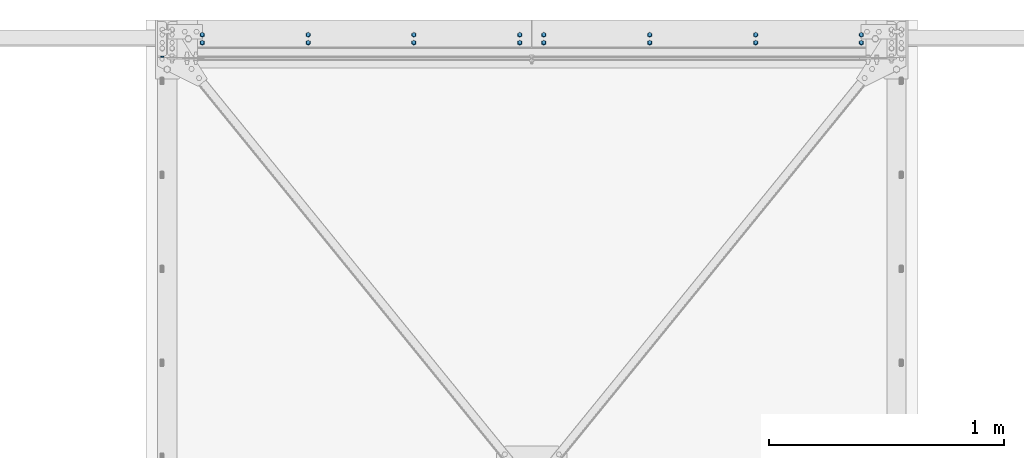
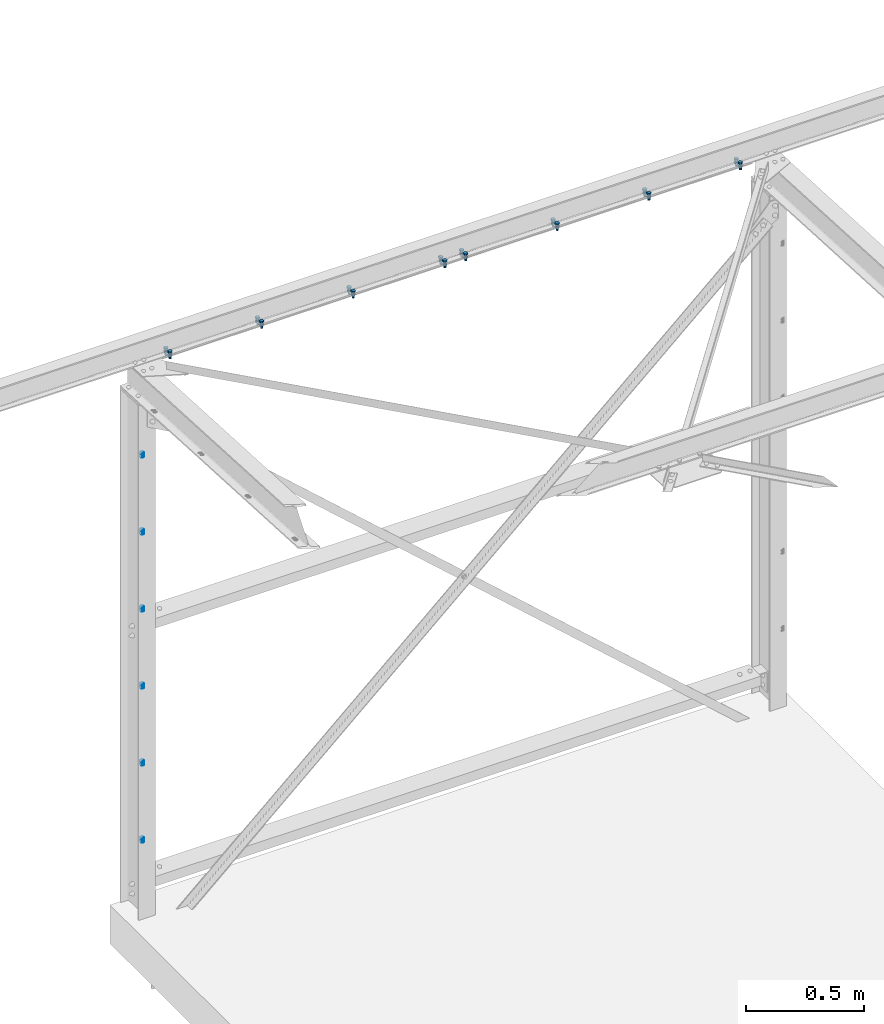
# One storey, part 138 of 362: 3 mechanical fasteners.
"""IFC2X3 building model written with IfcOpenShell, lengths in millimetres."""

from ifc_helpers import new_model, si_unit, frame, frame_2d, origin_with_axes, origin_2d_with_axis, place, context, subcontext, project, spatial, polyline, circle_curve, parameter, trimmed, segment, composite_curve, circle, outline, extrude, source, transform, mapped, material, type_object, element, save


model = new_model("IFC2X3")

# Units and contexts
model_context = context("Model", 3, precision=1e-05, world=origin_with_axes())
body_context = subcontext(model_context, "Body", "Model", "MODEL_VIEW")
ifc_project = project(units=[si_unit("LENGTHUNIT", "METRE", prefix="MILLI"), si_unit("AREAUNIT", "SQUARE_METRE"), si_unit("VOLUMEUNIT", "CUBIC_METRE"), si_unit("MASSUNIT", "GRAM", prefix="KILO"), si_unit("TIMEUNIT", "SECOND"), si_unit("PLANEANGLEUNIT", "RADIAN"), si_unit("SOLIDANGLEUNIT", "STERADIAN"), si_unit("THERMODYNAMICTEMPERATUREUNIT", "DEGREE_CELSIUS"), si_unit("LUMINOUSINTENSITYUNIT", "LUMEN")], contexts=[model_context])

# Site, building, storey
site_placement = place(None, origin_with_axes())
site = spatial("IfcSite", under=ifc_project, at=site_placement, Name="Undefined", CompositionType="ELEMENT")
building_placement = place(site_placement, origin_with_axes())
building = spatial("IfcBuilding", under=site, at=building_placement, Name="Undefined", CompositionType="ELEMENT")
storey_placement = place(building_placement, origin_with_axes())
storey = spatial("IfcBuildingStorey", under=building, at=storey_placement, Name="Undefined", CompositionType="ELEMENT", Elevation=0.0)

# Mechanical fasteners
ifc_material_1 = material(Name="#_SB-8.8-ZINGUE")
mechanical_fastener_type = type_object("IfcMechanicalFastenerType", Name="Bolt assembly")
shared_shape_1 = source(origin_with_axes(), body_context, "Body", "SweptSolid", [
    extrude(outline(composite_curve([segment(polyline([(-7.0, 7.0), (7.0, 7.0)]), True, "CONTINUOUS"), segment(trimmed(circle_curve(frame_2d((7.0, 0.0), x_axis=(0.0, 1.0)), 7.0), [parameter(0.0)], [parameter(3.14159265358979)], False, "PARAMETER"), True, "CONTINUOUS"), segment(polyline([(7.0, -7.0), (-7.0, -7.0)]), True, "CONTINUOUS"), segment(trimmed(circle_curve(frame_2d((-7.0, 0.0), x_axis=(0.0, -1.0)), 7.0), [parameter(0.0)], [parameter(3.14159265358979)], False, "PARAMETER"), True, "DISCONTINUOUS")], self_intersect=False)), frame((0.0, -7.40002311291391, 0.0), z_axis=(0.0, 1.0, 0.0), x_axis=(1.0, 0.0, 0.0)), (0.0, 0.0, 1.0), 7.5),
])
mechanical_fastener_placement = place(storey_placement, frame((28882.0000011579, 29160.0000663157, 409.999999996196), z_axis=(1.0, 0.0, 0.0), x_axis=(0.0, 0.0, 1.0)))
element("IfcMechanicalFastener", 1, at=mechanical_fastener_placement, inside=storey, type_object=mechanical_fastener_type, material=ifc_material_1, Name="Bolt assembly", NominalDiameter=12.0, NominalLength=7.40000009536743, context=body_context, shape_type="MappedRepresentation", body=[
    mapped(shared_shape_1, transform((0.0, 0.0, 0.0))),
    mapped(shared_shape_1, transform((400.0, 0.0, 0.0))),
    mapped(shared_shape_1, transform((800.0, 0.0, 0.0))),
    mapped(shared_shape_1, transform((1200.0, 0.0, 0.0))),
    mapped(shared_shape_1, transform((1600.0, 0.0, 0.0))),
    mapped(shared_shape_1, transform((2000.0, 0.0, 0.0))),
])
ifc_material_2 = material(Name="6.8")
shared_shape_2 = source(origin_with_axes(), body_context, "Body", "SweptSolid", [
    extrude(circle(Radius=6.0, at=origin_2d_with_axis()), frame((0.0, -6.19999893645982, 0.0), z_axis=(0.0, 1.0, 0.0), x_axis=(1.0, 0.0, 0.0)), (0.0, 0.0, 1.0), 6.3),
    extrude(circle(Radius=6.0, at=origin_2d_with_axis()), frame((0.0, -0.100011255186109, 0.0), z_axis=(0.0, 1.0, 0.0), x_axis=(1.0, 0.0, 0.0)), (0.0, 0.0, 1.0), 3.1),
    extrude(outline(polyline([(9.81495457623, 0.0), (4.907477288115, 8.5000000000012), (-4.907477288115, 8.5000000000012), (-9.81495457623, 0.0), (-4.907477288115, -8.5000000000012), (4.907477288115, -8.5000000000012), (9.81495457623, 0.0)])), frame((0.0, -13.7999989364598, 0.0), z_axis=(0.0, 1.0, 0.0), x_axis=(1.0, 0.0, 0.0)), (0.0, 0.0, 1.0), 7.5),
    extrude(circle(Radius=5.0, at=origin_2d_with_axis()), frame((0.0, -6.29999893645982, 0.0), z_axis=(0.0, 1.0, 0.0), x_axis=(1.0, 0.0, 0.0)), (0.0, 0.0, 1.0), 30.0),
    extrude(outline(polyline([(9.23760430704, 0.0), (4.61880215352, 8.00000000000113), (-4.61880215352, 8.00000000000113), (-9.23760430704, 0.0), (-4.61880215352, -8.00000000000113), (4.61880215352, -8.00000000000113), (9.23760430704, 0.0)])), frame((0.0, 3.00000067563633, 0.0), z_axis=(0.0, 1.0, 0.0), x_axis=(1.0, 0.0, 0.0)), (0.0, 0.0, 1.0), 8.4),
])
for number, where, z_axis, x_axis, name in (
    (2, (31178.9999524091, 29223.0233444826, 2838.88925744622), (-1.0, 0.0, 0.0), (-6.99999093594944e-09, 0.998630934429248, -0.0523092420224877), "Bolt assembly"),
    (3, (29726.9999546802, 29223.0233444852, 2838.88925744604), (-1.0, 0.0, 0.0), (-6.99999093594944e-09, 0.998630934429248, -0.0523092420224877), "Bolt assembly"),
):
    element("IfcMechanicalFastener", number, at=place(storey_placement, frame(where, z_axis=z_axis, x_axis=x_axis)), inside=storey, type_object=mechanical_fastener_type, material=ifc_material_2, Name=name, NominalDiameter=10.0, NominalLength=30.0, context=body_context, shape_type="MappedRepresentation", body=[
        mapped(shared_shape_2, transform((0.0, 0.0, -675.0))),
        mapped(shared_shape_2, transform((33.9999999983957, -1.84900272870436e-09, -675.000000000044))),
        mapped(shared_shape_2, transform((0.0, 0.0, -225.0))),
        mapped(shared_shape_2, transform((33.9999999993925, -6.19365891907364e-10, -225.000000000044))),
        mapped(shared_shape_2, transform((0.0, 0.0, 225.0))),
        mapped(shared_shape_2, transform((34.0000000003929, 6.12089934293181e-10, 224.999999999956))),
        mapped(shared_shape_2, transform((0.0, 0.0, 675.0))),
        mapped(shared_shape_2, transform((34.0000000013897, 1.84263626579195e-09, 674.999999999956))),
    ])

save(model, "model.ifc")
